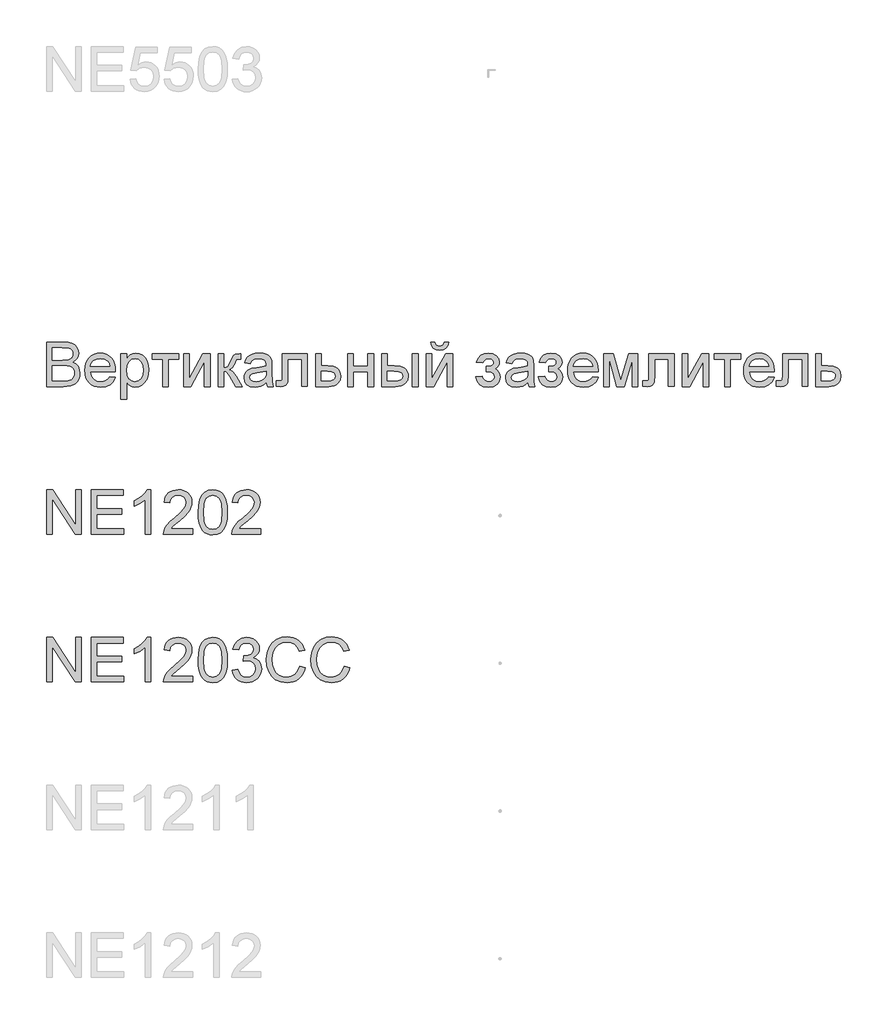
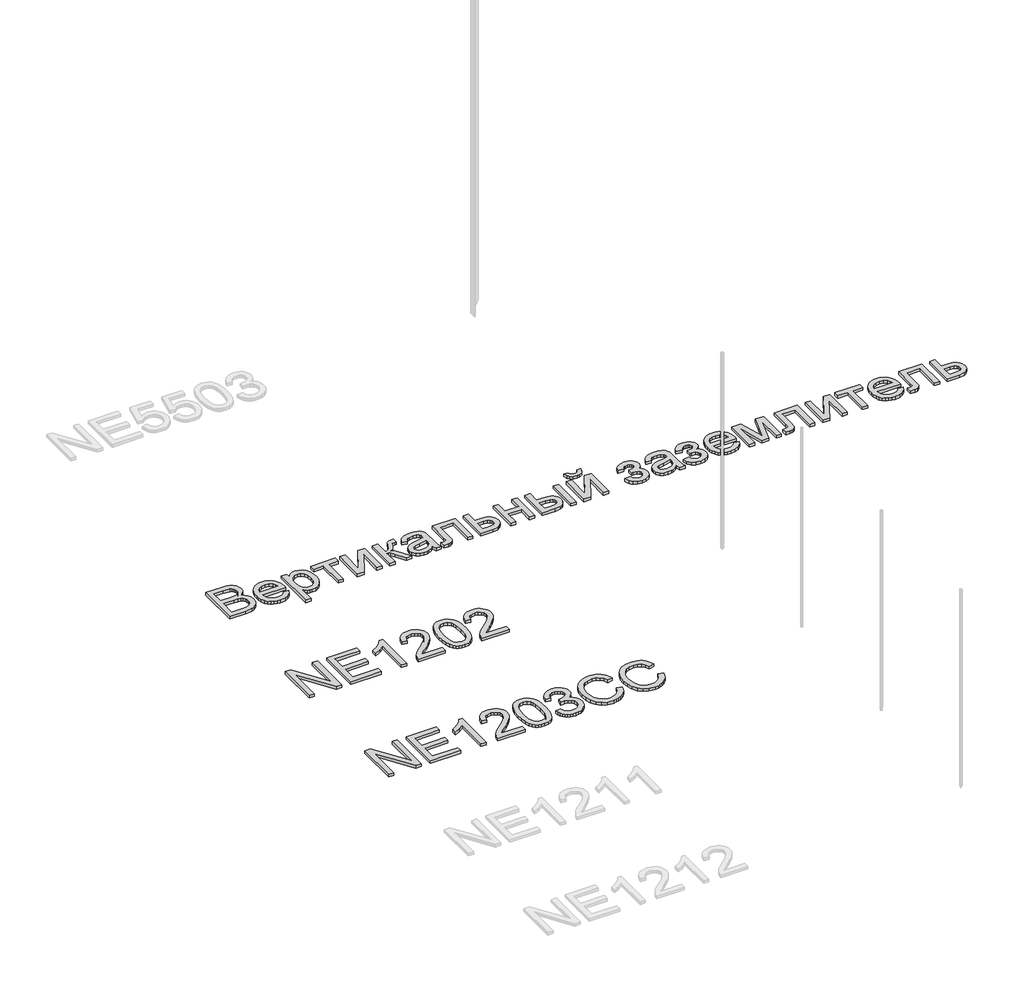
# One storey, part 51 of 124: 3 proxies.
"""IFC4 building model written with IfcOpenShell, lengths in millimetres."""

from ifc_helpers import new_model, si_unit, origin, origin_with_axes, place, context, project, spatial, polyline, outline, extrude, element, save

model = new_model("IFC4")

# Units and contexts
model_context = context("Model", 3, world=origin())
ifc_project = project(units=[si_unit("LENGTHUNIT", "METRE", prefix="MILLI")], contexts=[model_context])

# Site, building, storey
site = spatial("IfcSite", under=ifc_project)
building = spatial("IfcBuilding", under=site)
storey = spatial("IfcBuildingStorey", under=building, Name="Этаж 01", Elevation=0.0)

# Proxies
placement = place(None, origin())
element("IfcBuildingElementProxy", 1, Name="300", ObjectType="300", at=placement, inside=storey, context=model_context, shape_type="SweptSolid", body=[
    extrude(outline(polyline([(32939.8675381, -67074.498362), (32939.8675381, -66773.1294316), (33054.8674498, -66773.1294316), (33086.4961044, -66775.3459206), (33111.1901833, -66781.9953876), (33130.117712, -66793.2433796), (33144.4467157, -66809.2554435), (33153.4690216, -66828.0910016), (33156.4764569, -66847.8094766), (33153.9472682, -66865.955256), (33146.359702, -66883.0157835), (33133.6585762, -66897.9425955), (33115.7887082, -66909.6872282), (33137.135061, -66920.8340526), (33152.9080016, -66937.7934126), (33162.6476774, -66959.443268), (33165.894236, -66984.6615788), (33163.677747, -67005.6768378), (33157.0282799, -67025.1653864), (33147.1046631, -67041.7384703), (33135.0657248, -67054.0073349), (33120.3228538, -67062.8916851), (33102.287439, -67069.3112259), (33053.9845331, -67074.498362), (32939.8675381, -67074.498362)]), holes=[polyline([(32977.5386545, -66895.5605595), (33046.3325876, -66895.5605595), (33086.5053014, -66892.323198), (33100.5675907, -66886.7405887), (33110.6751485, -66878.3804704), (33116.7727926, -66867.3716017), (33118.8053406, -66853.8427413), (33116.9107483, -66840.7093541), (33111.2269715, -66829.268224), (33102.0115275, -66820.3378886), (33089.5219338, -66814.7368852), (33041.1086632, -66810.8005479), (32977.5386545, -66810.8005479), (32977.5386545, -66895.5605595)]), polyline([(32977.5386545, -67036.8272457), (33054.7938734, -67036.8272457), (33082.7529051, -67035.3557177), (33106.4077174, -67027.1519492), (33122.0794904, -67010.4133184), (33126.6872123, -66998.5859123), (33128.2231197, -66985.0294608), (33126.4204979, -66969.2841114), (33121.0126326, -66955.746054), (33111.5672623, -66945.1602495), (33097.6521259, -66938.2716592), (33077.942848, -66934.4916717), (33051.1150535, -66933.2316759), (32977.5386545, -66933.2316759), (32977.5386545, -67036.8272457)])]), origin_with_axes(), (0.0, 0.0, 1.0), 20.0),
    extrude(outline(polyline([(33367.9350277, -67008.5739085), (33404.8703801, -67013.282798), (33391.5622489, -67041.1130709), (33370.3262607, -67061.9167978), (33341.6406621, -67074.8846381), (33305.9836997, -67079.2072515), (33282.6093975, -67077.3425497), (33261.782678, -67071.7484441), (33243.5035414, -67062.4249348), (33227.7719876, -67049.3720217), (33215.1214455, -67032.9529884), (33206.085344, -67013.5311184), (33200.6636831, -66991.1064115), (33198.8564628, -66965.6788678), (33200.6820772, -66939.3891007), (33206.1589204, -66916.2171336), (33215.2869924, -66896.1629663), (33228.0662932, -66879.226599), (33243.7564603, -66865.771315), (33261.6171311, -66856.1603979), (33281.6483058, -66850.3938476), (33303.8499842, -66848.4716642), (33325.336592, -66850.3892491), (33344.7676591, -66856.1420038), (33362.1431856, -66865.7299283), (33377.4631714, -66879.1530226), (33389.96886, -66896.0526017), (33398.9014947, -66916.0699808), (33404.2610755, -66939.2051598), (33406.0476024, -66965.4581386), (33405.8268732, -66975.6116817), (33236.5275791, -66975.6116817), (33243.0482874, -67003.8098366), (33258.1958286, -67024.5399871), (33280.0572161, -67037.2870982), (33306.7194637, -67041.5361352), (33326.7690325, -67039.5679666), (33343.6548161, -67033.6634605), (33357.3768145, -67023.4547352), (33367.9350277, -67008.5739085)]), holes=[polyline([(33236.5275791, -66937.9405654), (33368.3764861, -66937.9405654), (33363.2813205, -66918.0381495), (33353.2933243, -66903.8011162), (33331.3307692, -66890.5573644), (33303.7028314, -66886.1427805), (33278.3097767, -66889.6652506), (33257.3129118, -66900.2326609), (33242.7171936, -66916.7045772), (33236.5275791, -66937.9405654)])]), origin_with_axes(), (0.0, 0.0, 1.0), 20.0),
    extrude(outline(polyline([(33443.7187187, -67159.2583737), (33443.7187187, -66853.1805537), (33481.389835, -66853.1805537), (33481.389835, -66890.115906), (33493.6770937, -66871.8965502), (33507.4358803, -66858.8827246), (33523.4755353, -66851.0744293), (33542.605399, -66848.4716642), (33568.0812272, -66852.1136959), (33590.356482, -66863.0397912), (33608.4930644, -66880.5877623), (33621.5528752, -66904.0954218), (33629.443944, -66931.8521184), (33632.0743003, -66962.1472007), (33629.1036532, -66994.3644664), (33620.1917118, -67023.1788237), (33605.6235848, -67047.1279416), (33585.6843807, -67064.7494891), (33562.4618297, -67075.5928109), (33538.0436623, -67079.2072515), (33520.7256174, -67076.7884274), (33505.2653765, -67069.5319551), (33492.0308218, -67058.5782687), (33481.389835, -67045.0678024), (33481.389835, -67159.2583737), (33443.7187187, -67159.2583737)]), holes=[polyline([(33481.389835, -66965.6052914), (33485.4641281, -66999.3768586), (33497.6870074, -67022.9948827), (33515.7224222, -67036.9008221), (33537.2343219, -67041.5361352), (33559.0957095, -67036.7352752), (33577.5909768, -67022.3326951), (33590.2001322, -66997.8501483), (33594.403184, -66962.8093883), (33590.3012997, -66929.2217621), (33577.995647, -66905.2726442), (33559.9878233, -66890.9252464), (33538.7794263, -66886.1427805), (33517.4882558, -66891.2287491), (33498.7906534, -66906.4866548), (33485.7400396, -66931.4382511), (33481.389835, -66965.6052914)])]), origin_with_axes(), (0.0, 0.0, 1.0), 20.0),
    extrude(outline(polyline([(33655.618748, -66853.1805537), (33834.5565504, -66853.1805537), (33834.5565504, -66890.85167), (33763.9232073, -66890.85167), (33763.9232073, -67074.498362), (33726.252091, -67074.498362), (33726.252091, -66890.85167), (33655.618748, -66890.85167), (33655.618748, -66853.1805537)])), origin_with_axes(), (0.0, 0.0, 1.0), 20.0),
    extrude(outline(polyline([(33867.5187772, -66853.1805537), (33905.1898935, -66853.1805537), (33905.1898935, -67021.9648131), (33997.7490035, -66853.1805537), (34046.4565796, -66853.1805537), (34046.4565796, -67074.498362), (34008.7854633, -67074.498362), (34008.7854633, -66906.7441722), (33916.8149645, -67074.498362), (33867.5187772, -67074.498362), (33867.5187772, -66853.1805537)])), origin_with_axes(), (0.0, 0.0, 1.0), 20.0),
    extrude(outline(polyline([(34102.9632541, -66853.1805537), (34140.6343704, -66853.1805537), (34140.6343704, -66947.3583445), (34155.9566555, -66945.6660873), (34165.8710753, -66940.5893158), (34174.6450609, -66927.3455639), (34186.5460434, -66901.1523659), (34203.7261326, -66867.1232813), (34218.8828708, -66856.0500333), (34246.4372322, -66853.1805537), (34253.6477193, -66853.1805537), (34253.6477193, -66891.0723992), (34243.4941763, -66890.85167), (34225.1000765, -66894.8247956), (34212.1506303, -66919.620042), (34196.9571039, -66946.4386395), (34175.6567363, -66959.5720267), (34187.5945071, -66964.874126), (34199.4219132, -66974.2321242), (34222.7456317, -67005.1158177), (34263.0654984, -67074.498362), (34220.2440342, -67074.498362), (34180.7335079, -67006.5873457), (34160.8678801, -66977.8557619), (34151.5788598, -66972.6410346), (34140.6343704, -66970.9027922), (34140.6343704, -67074.498362), (34102.9632541, -67074.498362), (34102.9632541, -66853.1805537)])), origin_with_axes(), (0.0, 0.0, 1.0), 20.0),
    extrude(outline(polyline([(34427.8766322, -67046.2450248), (34409.8780056, -67061.6776745), (34391.3459501, -67071.7760352), (34371.8574014, -67077.3494475), (34350.9892952, -67079.2072515), (34319.5077935, -67074.7374853), (34296.2852426, -67061.3281866), (34281.9654359, -67040.9659181), (34277.192167, -67015.6372428), (34278.9947888, -67000.0206521), (34284.4026541, -66985.8388012), (34292.7443784, -66973.6986953), (34303.3485769, -66964.2073398), (34329.7257159, -66951.8465048), (34362.3200607, -66946.1811221), (34400.8373056, -66940.2214338), (34427.655903, -66933.2316759), (34427.8766322, -66924.8439664), (34425.2830642, -66908.0317592), (34417.50236, -66897.0320875), (34400.1015416, -66888.8651072), (34375.8581181, -66886.1427805), (34353.4173164, -66887.9545993), (34337.7455434, -66893.3900558), (34327.0585715, -66903.4424313), (34319.5721729, -66919.1050072), (34281.9010566, -66914.3961177), (34288.440159, -66893.794726), (34298.1982289, -66877.6079182), (34312.0857743, -66865.228689), (34331.0133029, -66856.0500333), (34354.1622775, -66850.3662564), (34380.7141605, -66848.4716642), (34406.1807916, -66850.1455272), (34426.3683161, -66855.1671165), (34441.5894336, -66862.7178944), (34452.1568439, -66871.9793237), (34459.1649959, -66883.4296508), (34463.7083386, -66897.5471223), (34465.5477485, -66930.5093491), (34465.5477485, -66977.3775153), (34467.4607349, -67042.8237222), (34474.9655276, -67074.498362), (34437.2944113, -67074.498362), (34427.8766322, -67046.2450248)]), holes=[polyline([(34427.8766322, -66970.9027922), (34367.1025266, -66982.4542868), (34334.6921229, -66988.5611279), (34320.0136313, -66998.4939418), (34314.8632833, -67012.9884924), (34317.6683835, -67024.1904992), (34326.0836842, -67033.3691549), (34339.9252442, -67039.4943902), (34359.0091227, -67041.5361352), (34379.2426325, -67039.282858), (34397.1216974, -67032.5230264), (34411.6162481, -67022.5626213), (34421.6962147, -67010.707624), (34426.165981, -66998.4939418), (34427.655903, -66981.57137), (34427.8766322, -66970.9027922)])]), origin_with_axes(), (0.0, 0.0, 1.0), 20.0),
    extrude(outline(polyline([(34536.1810916, -66853.1805537), (34705.701115, -66853.1805537), (34705.701115, -67074.2776328), (34668.0299987, -67074.2776328), (34668.0299987, -66890.85167), (34573.8522079, -66890.85167), (34573.8522079, -66996.4338026), (34571.3138222, -67045.1413788), (34566.5589474, -67056.1686416), (34557.3710945, -67065.7059823), (34543.4283669, -67072.3002671), (34524.4088678, -67074.498362), (34493.8010858, -67072.5853756), (34493.8010858, -67036.8272457), (34510.6500812, -67036.8272457), (34527.6830175, -67034.5095891), (34534.4888344, -67027.1519492), (34536.1810916, -66994.3000871), (34536.1810916, -66853.1805537)])), origin_with_axes(), (0.0, 0.0, 1.0), 20.0),
    extrude(outline(polyline([(34762.2077895, -66853.1805537), (34799.8789058, -66853.1805537), (34799.8789058, -66933.2316759), (34843.2889812, -66933.2316759), (34880.9233093, -66937.9497624), (34896.0708505, -66943.8473707), (34908.7719763, -66952.1040222), (34918.8151548, -66962.4346085), (34925.9888537, -66974.554021), (34931.7278128, -67004.1593245), (34926.8441793, -67031.1158777), (34912.1932789, -67053.8601821), (34900.9613817, -67062.8893858), (34886.8002242, -67069.338817), (34849.6901279, -67074.498362), (34762.2077895, -67074.498362), (34762.2077895, -66853.1805537)]), holes=[polyline([(34799.8789058, -67036.8272457), (34835.0484245, -67036.8272457), (34862.3360715, -67034.84988), (34880.4818509, -67028.9177828), (34890.6629851, -67018.7918309), (34894.0566965, -67004.2329009), (34891.5459019, -66991.9272482), (34884.0135181, -66981.0563352), (34867.8726955, -66973.4411779), (34839.5365848, -66970.9027922), (34799.8789058, -66970.9027922), (34799.8789058, -67036.8272457)])]), origin_with_axes(), (0.0, 0.0, 1.0), 20.0),
    extrude(outline(polyline([(34978.8167082, -66853.1805537), (35016.4878245, -66853.1805537), (35016.4878245, -66937.9405654), (35115.3745048, -66937.9405654), (35115.3745048, -66853.1805537), (35153.0456211, -66853.1805537), (35153.0456211, -67074.498362), (35115.3745048, -67074.498362), (35115.3745048, -66975.6116817), (35016.4878245, -66975.6116817), (35016.4878245, -67074.498362), (34978.8167082, -67074.498362), (34978.8167082, -66853.1805537)])), origin_with_axes(), (0.0, 0.0, 1.0), 20.0),
    extrude(outline(polyline([(35416.7434353, -66853.1805537), (35454.4145516, -66853.1805537), (35454.4145516, -67074.498362), (35416.7434353, -67074.498362), (35416.7434353, -66853.1805537)])), origin_with_axes(), (0.0, 0.0, 1.0), 20.0),
    extrude(outline(polyline([(35209.5522956, -66853.1805537), (35247.2234119, -66853.1805537), (35247.2234119, -66933.2316759), (35293.7972725, -66933.2316759), (35334.0527598, -66937.9497624), (35350.269458, -66943.8473707), (35363.8787926, -66952.1040222), (35374.6462387, -66962.4346085), (35382.3372717, -66974.554021), (35386.9518915, -66988.4622596), (35388.490098, -67004.1593245), (35383.3305531, -67031.1158777), (35367.8519181, -67053.8601821), (35355.990023, -67062.8893858), (35341.0425177, -67069.338817), (35301.8906764, -67074.498362), (35209.5522956, -67074.498362), (35209.5522956, -66853.1805537)]), holes=[polyline([(35247.2234119, -67036.8272457), (35285.9245978, -67036.8272457), (35315.9253745, -67034.84988), (35335.8829727, -67028.9177828), (35347.0849795, -67018.7918309), (35350.8189817, -67004.2329009), (35348.0506697, -66991.9272482), (35339.7457337, -66981.0563352), (35321.9862304, -66973.4411779), (35290.8542165, -66970.9027922), (35247.2234119, -66970.9027922), (35247.2234119, -67036.8272457)])]), origin_with_axes(), (0.0, 0.0, 1.0), 20.0),
    extrude(outline(polyline([(35510.921226, -66853.1805537), (35548.5923423, -66853.1805537), (35548.5923423, -67021.9648131), (35641.1514523, -66853.1805537), (35689.8590285, -66853.1805537), (35689.8590285, -67074.498362), (35652.1879122, -67074.498362), (35652.1879122, -66906.7441722), (35560.2174134, -67074.498362), (35510.921226, -67074.498362), (35510.921226, -66853.1805537)])), origin_with_axes(), (0.0, 0.0, 1.0), 20.0),
    extrude(outline(polyline([(35633.352354, -66773.1294316), (35661.6056913, -66773.1294316), (35655.5264413, -66797.2532934), (35643.3219561, -66815.0311908), (35625.5440587, -66825.9848772), (35602.744572, -66829.636106), (35578.0045079, -66826.0124684), (35558.8194618, -66815.1415554), (35545.7044687, -66797.3912491), (35539.1745633, -66773.1294316), (35567.4279005, -66773.1294316), (35571.401026, -66785.5362518), (35578.022902, -66794.3562227), (35587.3303164, -66799.6261323), (35599.3600577, -66801.3827688), (35612.9349033, -66799.6813146), (35622.7573526, -66794.5769519), (35629.3792285, -66785.8121633), (35633.352354, -66773.1294316)])), origin_with_axes(), (0.0, 0.0, 1.0), 20.0),
    extrude(outline(polyline([(35915.8857263, -66975.6116817), (35915.8857263, -66937.9405654), (35945.6105915, -66936.4690374), (35960.6201769, -66928.6331509), (35965.9176777, -66921.2847081), (35967.6835113, -66912.2624021), (35965.3198694, -66901.547839), (35958.228944, -66893.242903), (35947.4040163, -66887.9178111), (35933.8383677, -66886.1427805), (35920.1255663, -66887.908614), (35908.638451, -66893.2061148), (35899.3770218, -66902.0352827), (35892.3412786, -66914.3961177), (35849.9612728, -66909.6872282), (35861.2000677, -66882.9054189), (35878.2881864, -66863.7755552), (35901.2256288, -66852.2976369), (35930.0123949, -66848.4716642), (35961.5030937, -66853.1345685), (35985.341847, -66867.1232813), (36000.3514324, -66887.5867173), (36005.3546276, -66911.6737909), (36003.5749984, -66924.034626), (35998.236111, -66935.0710858), (35989.3379652, -66944.7831705), (35976.8805611, -66953.17088), (35991.421097, -66963.6371228), (36001.7861722, -66976.6417513), (36007.9941809, -66992.2215538), (36010.0635171, -67010.4133184), (36004.8120016, -67038.1424238), (35989.0574552, -67060.114176), (35963.8667356, -67074.4339827), (35930.3067005, -67079.2072515), (35897.4824295, -67074.7926676), (35872.3652863, -67061.5489158), (35854.9552709, -67039.4759961), (35845.2523833, -67008.5739085), (35887.6323891, -67003.8650189), (35893.9783535, -67019.7943093), (35904.6285373, -67031.6768978), (35918.3505357, -67039.0713259), (35933.9119441, -67041.5361352), (35949.0686823, -67039.1724934), (35961.4295173, -67032.081568), (35969.6516799, -67021.3118225), (35972.3924008, -67007.9117209), (35970.6909466, -66997.2983253), (35965.5865839, -66988.1196695), (35951.0920333, -66977.5246681), (35923.2433662, -66975.3909525), (35915.8857263, -66975.6116817)])), origin_with_axes(), (0.0, 0.0, 1.0), 20.0),
    extrude(outline(polyline([(36198.4190986, -67046.2450248), (36180.420472, -67061.6776745), (36161.8884165, -67071.7760352), (36142.3998678, -67077.3494475), (36121.5317616, -67079.2072515), (36090.0502599, -67074.7374853), (36066.827709, -67061.3281866), (36052.5079023, -67040.9659181), (36047.7346334, -67015.6372428), (36049.5372552, -67000.0206521), (36054.9451205, -66985.8388012), (36063.2868447, -66973.6986953), (36073.8910433, -66964.2073398), (36100.2681823, -66951.8465048), (36132.8625271, -66946.1811221), (36171.379772, -66940.2214338), (36198.1983694, -66933.2316759), (36198.4190986, -66924.8439664), (36195.8255306, -66908.0317592), (36188.0448264, -66897.0320875), (36170.644008, -66888.8651072), (36146.4005845, -66886.1427805), (36123.9597828, -66887.9545993), (36108.2880098, -66893.3900558), (36097.6010378, -66903.4424313), (36090.1146392, -66919.1050072), (36052.4435229, -66914.3961177), (36058.9826254, -66893.794726), (36068.7406953, -66877.6079182), (36082.6282406, -66865.228689), (36101.5557693, -66856.0500333), (36124.7047438, -66850.3662564), (36151.2566268, -66848.4716642), (36176.723258, -66850.1455272), (36196.9107824, -66855.1671165), (36212.1319, -66862.7178944), (36222.6993103, -66871.9793237), (36229.7074623, -66883.4296508), (36234.250805, -66897.5471223), (36236.0902149, -66930.5093491), (36236.0902149, -66977.3775153), (36238.0032013, -67042.8237222), (36245.507994, -67074.498362), (36207.8368777, -67074.498362), (36198.4190986, -67046.2450248)]), holes=[polyline([(36198.4190986, -66970.9027922), (36137.644993, -66982.4542868), (36105.2345892, -66988.5611279), (36090.5560976, -66998.4939418), (36085.4057497, -67012.9884924), (36088.2108499, -67024.1904992), (36096.6261506, -67033.3691549), (36110.4677106, -67039.4943902), (36129.5515891, -67041.5361352), (36149.7850989, -67039.282858), (36167.6641638, -67032.5230264), (36182.1587144, -67022.5626213), (36192.2386811, -67010.707624), (36196.7084473, -66998.4939418), (36198.1983694, -66981.57137), (36198.4190986, -66970.9027922)])]), origin_with_axes(), (0.0, 0.0, 1.0), 20.0),
    extrude(outline(polyline([(36339.6857848, -66975.6116817), (36339.6857848, -66937.9405654), (36369.41065, -66936.4690374), (36384.4202354, -66928.6331509), (36389.7177361, -66921.2847081), (36391.4835697, -66912.2624021), (36389.1199279, -66901.547839), (36382.0290024, -66893.242903), (36371.2040747, -66887.9178111), (36357.6384261, -66886.1427805), (36343.9256248, -66887.908614), (36332.4385095, -66893.2061148), (36323.1770802, -66902.0352827), (36316.1413371, -66914.3961177), (36273.7613312, -66909.6872282), (36285.0001262, -66882.9054189), (36302.0882449, -66863.7755552), (36325.0256873, -66852.2976369), (36353.8124534, -66848.4716642), (36385.3031522, -66853.1345685), (36409.1419055, -66867.1232813), (36424.1514909, -66887.5867173), (36429.154686, -66911.6737909), (36427.3750569, -66924.034626), (36422.0361694, -66935.0710858), (36413.1380236, -66944.7831705), (36400.6806196, -66953.17088), (36415.2211554, -66963.6371228), (36425.5862306, -66976.6417513), (36431.7942393, -66992.2215538), (36433.8635755, -67010.4133184), (36428.6120601, -67038.1424238), (36412.8575136, -67060.114176), (36387.666794, -67074.4339827), (36354.106759, -67079.2072515), (36321.282488, -67074.7926676), (36296.1653447, -67061.5489158), (36278.7553293, -67039.4759961), (36269.0524417, -67008.5739085), (36311.4324475, -67003.8650189), (36317.778412, -67019.7943093), (36328.4285957, -67031.6768978), (36342.1505941, -67039.0713259), (36357.7120025, -67041.5361352), (36372.8687407, -67039.1724934), (36385.2295758, -67032.081568), (36393.4517384, -67021.3118225), (36396.1924592, -67007.9117209), (36394.491005, -66997.2983253), (36389.3866423, -66988.1196695), (36374.8920917, -66977.5246681), (36347.0434247, -66975.3909525), (36339.6857848, -66975.6116817)])), origin_with_axes(), (0.0, 0.0, 1.0), 20.0),
    extrude(outline(polyline([(36635.9043673, -67008.5739085), (36672.8397196, -67013.282798), (36659.5315884, -67041.1130709), (36638.2956003, -67061.9167978), (36609.6100017, -67074.8846381), (36573.9530393, -67079.2072515), (36550.578737, -67077.3425497), (36529.7520176, -67071.7484441), (36511.4728809, -67062.4249348), (36495.7413271, -67049.3720217), (36483.090785, -67032.9529884), (36474.0546835, -67013.5311184), (36468.6330226, -66991.1064115), (36466.8258023, -66965.6788678), (36468.6514167, -66939.3891007), (36474.1282599, -66916.2171336), (36483.2563319, -66896.1629663), (36496.0356327, -66879.226599), (36511.7257998, -66865.771315), (36529.5864707, -66856.1603979), (36549.6176453, -66850.3938476), (36571.8193237, -66848.4716642), (36593.3059315, -66850.3892491), (36612.7369986, -66856.1420038), (36630.1125251, -66865.7299283), (36645.432511, -66879.1530226), (36657.9381995, -66896.0526017), (36666.8708342, -66916.0699808), (36672.2304151, -66939.2051598), (36674.016942, -66965.4581386), (36673.7962128, -66975.6116817), (36504.4969186, -66975.6116817), (36511.017627, -67003.8098366), (36526.1651681, -67024.5399871), (36548.0265557, -67037.2870982), (36574.6888033, -67041.5361352), (36594.738372, -67039.5679666), (36611.6241556, -67033.6634605), (36625.346154, -67023.4547352), (36635.9043673, -67008.5739085)]), holes=[polyline([(36504.4969186, -66937.9405654), (36636.3458257, -66937.9405654), (36631.2506601, -66918.0381495), (36621.2626639, -66903.8011162), (36599.3001088, -66890.5573644), (36571.6721709, -66886.1427805), (36546.2791162, -66889.6652506), (36525.2822513, -66900.2326609), (36510.6865332, -66916.7045772), (36504.4969186, -66937.9405654)])]), origin_with_axes(), (0.0, 0.0, 1.0), 20.0),
    extrude(outline(polyline([(36711.6880583, -66853.1805537), (36776.5088658, -66853.1805537), (36826.4672408, -67030.3525226), (36880.3251649, -66853.1805537), (36942.4236457, -66853.1805537), (36942.4236457, -67074.498362), (36904.7525294, -67074.498362), (36904.7525294, -66896.2963235), (36850.6002997, -67074.498362), (36801.1569595, -67074.498362), (36749.3591746, -66887.7614613), (36749.3591746, -67074.498362), (36711.6880583, -67074.498362), (36711.6880583, -66853.1805537)])), origin_with_axes(), (0.0, 0.0, 1.0), 20.0),
    extrude(outline(polyline([(37017.7658783, -66853.1805537), (37187.2859017, -66853.1805537), (37187.2859017, -67074.2776328), (37149.6147854, -67074.2776328), (37149.6147854, -66890.85167), (37055.4369946, -66890.85167), (37055.4369946, -66996.4338026), (37052.8986088, -67045.1413788), (37048.143734, -67056.1686416), (37038.9558812, -67065.7059823), (37025.0131536, -67072.3002671), (37005.9936544, -67074.498362), (36975.3858724, -67072.5853756), (36975.3858724, -67036.8272457), (36992.2348678, -67036.8272457), (37009.2678042, -67034.5095891), (37016.0736211, -67027.1519492), (37017.7658783, -66994.3000871), (37017.7658783, -66853.1805537)])), origin_with_axes(), (0.0, 0.0, 1.0), 20.0),
    extrude(outline(polyline([(37243.7925761, -66853.1805537), (37281.4636924, -66853.1805537), (37281.4636924, -67021.9648131), (37374.0228024, -66853.1805537), (37422.7303786, -66853.1805537), (37422.7303786, -67074.498362), (37385.0592623, -67074.498362), (37385.0592623, -66906.7441722), (37293.0887635, -67074.498362), (37243.7925761, -67074.498362), (37243.7925761, -66853.1805537)])), origin_with_axes(), (0.0, 0.0, 1.0), 20.0),
    extrude(outline(polyline([(37460.4014949, -66853.1805537), (37639.3392973, -66853.1805537), (37639.3392973, -66890.85167), (37568.7059543, -66890.85167), (37568.7059543, -67074.498362), (37531.034838, -67074.498362), (37531.034838, -66890.85167), (37460.4014949, -66890.85167), (37460.4014949, -66853.1805537)])), origin_with_axes(), (0.0, 0.0, 1.0), 20.0),
    extrude(outline(polyline([(37827.2534205, -67008.5739085), (37864.1887728, -67013.282798), (37850.8806416, -67041.1130709), (37829.6446534, -67061.9167978), (37800.9590549, -67074.8846381), (37765.3020925, -67079.2072515), (37741.9277902, -67077.3425497), (37721.1010708, -67071.7484441), (37702.8219341, -67062.4249348), (37687.0903803, -67049.3720217), (37674.4398382, -67032.9529884), (37665.4037367, -67013.5311184), (37659.9820758, -66991.1064115), (37658.1748555, -66965.6788678), (37660.0004699, -66939.3891007), (37665.4773131, -66916.2171336), (37674.6053851, -66896.1629663), (37687.3846859, -66879.226599), (37703.074853, -66865.771315), (37720.9355239, -66856.1603979), (37740.9666985, -66850.3938476), (37763.1683769, -66848.4716642), (37784.6549847, -66850.3892491), (37804.0860518, -66856.1420038), (37821.4615783, -66865.7299283), (37836.7815641, -66879.1530226), (37849.2872527, -66896.0526017), (37858.2198874, -66916.0699808), (37863.5794682, -66939.2051598), (37865.3659952, -66965.4581386), (37865.145266, -66975.6116817), (37695.8459718, -66975.6116817), (37702.3666802, -67003.8098366), (37717.5142213, -67024.5399871), (37739.3756089, -67037.2870982), (37766.0378565, -67041.5361352), (37786.0874252, -67039.5679666), (37802.9732088, -67033.6634605), (37816.6952072, -67023.4547352), (37827.2534205, -67008.5739085)]), holes=[polyline([(37695.8459718, -66937.9405654), (37827.6948789, -66937.9405654), (37822.5997132, -66918.0381495), (37812.6117171, -66903.8011162), (37790.649162, -66890.5573644), (37763.0212241, -66886.1427805), (37737.6281694, -66889.6652506), (37716.6313045, -66900.2326609), (37702.0355864, -66916.7045772), (37695.8459718, -66937.9405654)])]), origin_with_axes(), (0.0, 0.0, 1.0), 20.0),
    extrude(outline(polyline([(37921.8726696, -66853.1805537), (38091.392693, -66853.1805537), (38091.392693, -67074.2776328), (38053.7215767, -67074.2776328), (38053.7215767, -66890.85167), (37959.5437859, -66890.85167), (37959.5437859, -66996.4338026), (37957.0054002, -67045.1413788), (37952.2505254, -67056.1686416), (37943.0626726, -67065.7059823), (37929.1199449, -67072.3002671), (37910.1004458, -67074.498362), (37879.4926638, -67072.5853756), (37879.4926638, -67036.8272457), (37896.3416592, -67036.8272457), (37913.3745955, -67034.5095891), (37920.1804125, -67027.1519492), (37921.8726696, -66994.3000871), (37921.8726696, -66853.1805537)])), origin_with_axes(), (0.0, 0.0, 1.0), 20.0),
    extrude(outline(polyline([(38147.8993675, -66853.1805537), (38185.5704838, -66853.1805537), (38185.5704838, -66933.2316759), (38228.9805592, -66933.2316759), (38266.6148873, -66937.9497624), (38281.7624285, -66943.8473707), (38294.4635543, -66952.1040222), (38304.5067328, -66962.4346085), (38311.6804317, -66974.554021), (38317.4193908, -67004.1593245), (38312.5357574, -67031.1158777), (38297.8848569, -67053.8601821), (38286.6529597, -67062.8893858), (38272.4918022, -67069.338817), (38235.3817059, -67074.498362), (38147.8993675, -67074.498362), (38147.8993675, -66853.1805537)]), holes=[polyline([(38185.5704838, -67036.8272457), (38220.7400025, -67036.8272457), (38248.0276495, -67034.84988), (38266.1734289, -67028.9177828), (38276.3545631, -67018.7918309), (38279.7482745, -67004.2329009), (38277.2374799, -66991.9272482), (38269.7050961, -66981.0563352), (38253.5642735, -66973.4411779), (38225.2281629, -66970.9027922), (38185.5704838, -66970.9027922), (38185.5704838, -67036.8272457)])]), origin_with_axes(), (0.0, 0.0, 1.0), 20.0),
])
element("IfcBuildingElementProxy", 2, Name="300", ObjectType="300", at=placement, inside=storey, context=model_context, shape_type="SweptSolid", body=[
    extrude(outline(polyline([(32939.8675381, -68074.498362), (32939.8675381, -67773.1294316), (32980.1874048, -67773.1294316), (33137.6408988, -68011.8848464), (33137.6408988, -67773.1294316), (33175.3120151, -67773.1294316), (33175.3120151, -68074.498362), (33134.9921484, -68074.498362), (32977.5386545, -67835.6693707), (32977.5386545, -68074.498362), (32939.8675381, -68074.498362)])), origin_with_axes(), (0.0, 0.0, 1.0), 20.0),
    extrude(outline(polyline([(33241.2364686, -68074.498362), (33241.2364686, -67773.1294316), (33457.8453874, -67773.1294316), (33457.8453874, -67810.8005479), (33278.9075849, -67810.8005479), (33278.9075849, -67900.2694491), (33448.4276083, -67900.2694491), (33448.4276083, -67937.9405654), (33278.9075849, -67937.9405654), (33278.9075849, -68036.8272457), (33462.5542769, -68036.8272457), (33462.5542769, -68074.498362), (33241.2364686, -68074.498362)])), origin_with_axes(), (0.0, 0.0, 1.0), 20.0),
    extrude(outline(polyline([(33646.2009689, -68074.498362), (33608.5298526, -68074.498362), (33608.5298526, -67839.6424963), (33572.8452991, -67865.0631421), (33533.18762, -67884.0826413), (33533.18762, -67848.4716642), (33562.7745294, -67832.3768269), (33588.4067074, -67813.228569), (33608.612626, -67792.8663006), (33621.9207572, -67773.1294316), (33646.2009689, -67773.1294316), (33646.2009689, -68074.498362)])), origin_with_axes(), (0.0, 0.0, 1.0), 20.0),
    extrude(outline(polyline([(33928.7343412, -68036.8272457), (33928.7343412, -68074.498362), (33730.9609806, -68074.498362), (33735.0076825, -68048.5258931), (33744.2967029, -68028.2280041), (33757.8899426, -68008.5371203), (33777.5532353, -67987.9265315), (33805.0524144, -67964.8695274), (33845.7033749, -67928.7619096), (33870.0939512, -67902.1088591), (33882.2892393, -67880.4773977), (33886.3543353, -67859.4345476), (33882.5191655, -67840.5713983), (33871.0136561, -67824.8904283), (33853.3277292, -67814.323018), (33830.9513069, -67810.8005479), (33807.4528444, -67814.2402445), (33789.1967004, -67824.5593345), (33777.4152795, -67840.9484774), (33773.3409864, -67862.5983328), (33735.6698701, -67857.8894432), (33744.8025406, -67821.4507316), (33753.3488992, -67806.9147943), (33764.5486067, -67794.8344693), (33778.1441457, -67785.3385153), (33793.8779988, -67778.555691), (33831.7606473, -67773.1294316), (33851.950471, -67774.6377477), (33869.9192072, -67779.1626963), (33885.6668559, -67786.7042772), (33899.193417, -67797.2624904), (33910.0574321, -67810.0555868), (33917.817443, -67824.3018171), (33922.4734495, -67840.0011812), (33924.0254516, -67857.1536793), (33922.3515886, -67875.1707), (33917.3299993, -67892.875021), (33908.418058, -67910.8828446), (33895.0731386, -67929.8103733), (33873.8003623, -67952.4075249), (33841.1048499, -67981.4242172), (33797.7683509, -68017.6605937), (33780.7722027, -68036.8272457), (33928.7343412, -68036.8272457)])), origin_with_axes(), (0.0, 0.0, 1.0), 20.0),
    extrude(outline(polyline([(33966.4054575, -67926.2419179), (33969.1737695, -67878.0033913), (33977.4787055, -67839.5321317), (33991.2374922, -67810.2395278), (34010.3673559, -67789.5369685), (34035.0062525, -67777.2313158), (34065.2921378, -67773.1294316), (34088.5054917, -67775.5574527), (34109.2908244, -67782.8415162), (34126.6732487, -67794.6965135), (34139.6778772, -67810.8373361), (34149.5003265, -67831.1260281), (34157.336213, -67855.4246339), (34162.4681668, -67886.2807362), (34164.1788181, -67926.2419179), (34161.4380972, -67974.2045331), (34153.2159346, -68012.5838222), (34139.5399215, -68041.9040172), (34120.4376489, -68062.68935), (34095.7435699, -68075.0777761), (34065.2921378, -68079.2072515), (34044.5435933, -68077.4138268), (34026.1494935, -68072.0335526), (34010.1098385, -68063.066429), (33996.4246283, -68050.5124559), (33983.2912411, -68027.8187353), (33973.9102502, -67999.5424055), (33968.2816557, -67965.6834664), (33966.4054575, -67926.2419179)]), holes=[polyline([(34004.0765738, -67926.1683415), (34008.4911577, -67985.4249339), (34014.0093877, -68005.6929326), (34021.7349096, -68019.7207329), (34041.4533845, -68036.0822847), (34065.2921378, -68041.5361352), (34089.1308911, -68036.0638906), (34108.849366, -68019.6471565), (34116.5748879, -68005.5963636), (34122.0931178, -67985.3329634), (34126.5077018, -67926.1683415), (34122.2402706, -67868.2453214), (34116.9059817, -67848.0440013), (34109.4379772, -67833.682808), (34089.7562905, -67816.5211129), (34064.8506794, -67810.8005479), (34041.2694435, -67815.8405312), (34022.3235208, -67830.9604812), (34014.3404815, -67846.595466), (34008.6383105, -67867.6751043), (34004.0765738, -67926.1683415)])]), origin_with_axes(), (0.0, 0.0, 1.0), 20.0),
    extrude(outline(polyline([(34390.2055159, -68036.8272457), (34390.2055159, -68074.498362), (34192.4321553, -68074.498362), (34196.4788573, -68048.5258931), (34205.7678777, -68028.2280041), (34219.3611174, -68008.5371203), (34239.02441, -67987.9265315), (34266.5235892, -67964.8695274), (34307.1745496, -67928.7619096), (34331.5651259, -67902.1088591), (34343.760414, -67880.4773977), (34347.8255101, -67859.4345476), (34343.9903403, -67840.5713983), (34332.4848309, -67824.8904283), (34314.798904, -67814.323018), (34292.4224816, -67810.8005479), (34268.9240192, -67814.2402445), (34250.6678752, -67824.5593345), (34238.8864543, -67840.9484774), (34234.8121612, -67862.5983328), (34197.1410449, -67857.8894432), (34206.2737154, -67821.4507316), (34214.820074, -67806.9147943), (34226.0197815, -67794.8344693), (34239.6153205, -67785.3385153), (34255.3491736, -67778.555691), (34293.231822, -67773.1294316), (34313.4216458, -67774.6377477), (34331.390382, -67779.1626963), (34347.1380306, -67786.7042772), (34360.6645917, -67797.2624904), (34371.5286069, -67810.0555868), (34379.2886177, -67824.3018171), (34383.9446242, -67840.0011812), (34385.4966264, -67857.1536793), (34383.8227633, -67875.1707), (34378.8011741, -67892.875021), (34369.8892328, -67910.8828446), (34356.5443134, -67929.8103733), (34335.271537, -67952.4075249), (34302.5760247, -67981.4242172), (34259.2395257, -68017.6605937), (34242.2433775, -68036.8272457), (34390.2055159, -68036.8272457)])), origin_with_axes(), (0.0, 0.0, 1.0), 20.0),
])
element("IfcBuildingElementProxy", 3, Name="300", ObjectType="300", at=placement, inside=storey, context=model_context, shape_type="SweptSolid", body=[
    extrude(outline(polyline([(32939.8675381, -69074.498362), (32939.8675381, -68773.1294316), (32980.1874048, -68773.1294316), (33137.6408988, -69011.8848464), (33137.6408988, -68773.1294316), (33175.3120151, -68773.1294316), (33175.3120151, -69074.498362), (33134.9921484, -69074.498362), (32977.5386545, -68835.6693707), (32977.5386545, -69074.498362), (32939.8675381, -69074.498362)])), origin_with_axes(), (0.0, 0.0, 1.0), 20.0),
    extrude(outline(polyline([(33241.2364686, -69074.498362), (33241.2364686, -68773.1294316), (33457.8453874, -68773.1294316), (33457.8453874, -68810.8005479), (33278.9075849, -68810.8005479), (33278.9075849, -68900.2694491), (33448.4276083, -68900.2694491), (33448.4276083, -68937.9405654), (33278.9075849, -68937.9405654), (33278.9075849, -69036.8272457), (33462.5542769, -69036.8272457), (33462.5542769, -69074.498362), (33241.2364686, -69074.498362)])), origin_with_axes(), (0.0, 0.0, 1.0), 20.0),
    extrude(outline(polyline([(33646.2009689, -69074.498362), (33608.5298526, -69074.498362), (33608.5298526, -68839.6424963), (33572.8452991, -68865.0631421), (33533.18762, -68884.0826413), (33533.18762, -68848.4716642), (33562.7745294, -68832.3768269), (33588.4067074, -68813.228569), (33608.612626, -68792.8663006), (33621.9207572, -68773.1294316), (33646.2009689, -68773.1294316), (33646.2009689, -69074.498362)])), origin_with_axes(), (0.0, 0.0, 1.0), 20.0),
    extrude(outline(polyline([(33928.7343412, -69036.8272457), (33928.7343412, -69074.498362), (33730.9609806, -69074.498362), (33735.0076825, -69048.5258931), (33744.2967029, -69028.2280041), (33757.8899426, -69008.5371203), (33777.5532353, -68987.9265315), (33805.0524144, -68964.8695274), (33845.7033749, -68928.7619096), (33870.0939512, -68902.1088591), (33882.2892393, -68880.4773977), (33886.3543353, -68859.4345476), (33882.5191655, -68840.5713983), (33871.0136561, -68824.8904283), (33853.3277292, -68814.323018), (33830.9513069, -68810.8005479), (33807.4528444, -68814.2402445), (33789.1967004, -68824.5593345), (33777.4152795, -68840.9484774), (33773.3409864, -68862.5983328), (33735.6698701, -68857.8894432), (33744.8025406, -68821.4507316), (33753.3488992, -68806.9147943), (33764.5486067, -68794.8344693), (33778.1441457, -68785.3385153), (33793.8779988, -68778.555691), (33831.7606473, -68773.1294316), (33851.950471, -68774.6377477), (33869.9192072, -68779.1626963), (33885.6668559, -68786.7042772), (33899.193417, -68797.2624904), (33910.0574321, -68810.0555868), (33917.817443, -68824.3018171), (33922.4734495, -68840.0011812), (33924.0254516, -68857.1536793), (33922.3515886, -68875.1707), (33917.3299993, -68892.875021), (33908.418058, -68910.8828446), (33895.0731386, -68929.8103733), (33873.8003623, -68952.4075249), (33841.1048499, -68981.4242172), (33797.7683509, -69017.6605937), (33780.7722027, -69036.8272457), (33928.7343412, -69036.8272457)])), origin_with_axes(), (0.0, 0.0, 1.0), 20.0),
    extrude(outline(polyline([(33966.4054575, -68926.2419179), (33969.1737695, -68878.0033913), (33977.4787055, -68839.5321317), (33991.2374922, -68810.2395278), (34010.3673559, -68789.5369685), (34035.0062525, -68777.2313158), (34065.2921378, -68773.1294316), (34088.5054917, -68775.5574527), (34109.2908244, -68782.8415162), (34126.6732487, -68794.6965135), (34139.6778772, -68810.8373361), (34149.5003265, -68831.1260281), (34157.336213, -68855.4246339), (34162.4681668, -68886.2807362), (34164.1788181, -68926.2419179), (34161.4380972, -68974.2045331), (34153.2159346, -69012.5838222), (34139.5399215, -69041.9040172), (34120.4376489, -69062.68935), (34095.7435699, -69075.0777761), (34065.2921378, -69079.2072515), (34044.5435933, -69077.4138268), (34026.1494935, -69072.0335526), (34010.1098385, -69063.066429), (33996.4246283, -69050.5124559), (33983.2912411, -69027.8187353), (33973.9102502, -68999.5424055), (33968.2816557, -68965.6834664), (33966.4054575, -68926.2419179)]), holes=[polyline([(34004.0765738, -68926.1683415), (34008.4911577, -68985.4249339), (34014.0093877, -69005.6929326), (34021.7349096, -69019.7207329), (34041.4533845, -69036.0822847), (34065.2921378, -69041.5361352), (34089.1308911, -69036.0638906), (34108.849366, -69019.6471565), (34116.5748879, -69005.5963636), (34122.0931178, -68985.3329634), (34126.5077018, -68926.1683415), (34122.2402706, -68868.2453214), (34116.9059817, -68848.0440013), (34109.4379772, -68833.682808), (34089.7562905, -68816.5211129), (34064.8506794, -68810.8005479), (34041.2694435, -68815.8405312), (34022.3235208, -68830.9604812), (34014.3404815, -68846.595466), (34008.6383105, -68867.6751043), (34004.0765738, -68926.1683415)])]), origin_with_axes(), (0.0, 0.0, 1.0), 20.0),
    extrude(outline(polyline([(34197.1410449, -68994.4472399), (34234.8121612, -68989.7383503), (34243.2458559, -69013.4115567), (34255.5974939, -69029.3960294), (34272.4740804, -69038.5011088), (34294.4826208, -69041.5361352), (34320.3079369, -69037.3606746), (34340.247141, -69024.8342927), (34352.9942521, -69006.1458873), (34357.2432892, -68983.4843564), (34353.0310403, -68961.9724567), (34340.3942938, -68944.5256531), (34321.26443, -68932.9649614), (34297.5728295, -68929.1113975), (34271.1589023, -68933.2316759), (34275.352757, -68895.5605595), (34281.3860218, -68896.0020179), (34303.9555822, -68893.2980853), (34324.1339096, -68885.1862873), (34338.3709428, -68871.4642889), (34343.1166206, -68851.9297549), (34339.6769239, -68835.6601737), (34329.3578339, -68822.4624071), (34313.6124845, -68813.7160127), (34293.8940096, -68810.8005479), (34274.1387465, -68813.7436038), (34257.9887269, -68822.5727717), (34246.1981089, -68837.2880515), (34239.5210507, -68857.8894432), (34201.8499344, -68853.1805537), (34212.9415766, -68819.3538042), (34232.6784456, -68794.0987053), (34259.680984, -68778.37175), (34292.5696344, -68773.1294316), (34316.2520379, -68775.7138026), (34338.0030608, -68783.4669156), (34356.3419783, -68795.698992), (34369.7880652, -68811.7202528), (34378.0378189, -68830.178732), (34380.7877369, -68849.7224629), (34378.1757747, -68867.9326217), (34370.3398882, -68884.4505233), (34357.390442, -68898.5220096), (34339.4378006, -68909.3929226), (34363.0190365, -68918.9210662), (34380.4934313, -68935.1446622), (34391.3091619, -68957.1807937), (34394.9144055, -68984.146544), (34393.1117837, -69003.2580136), (34387.7039184, -69020.8611671), (34378.6908095, -69036.9560044), (34366.0724571, -69051.5425255), (34350.6995882, -69063.6458431), (34333.42293, -69072.29107), (34314.2424825, -69077.4782062), (34293.1582456, -69079.2072515), (34274.1019583, -69077.731125), (34256.7379281, -69073.3027455), (34241.0661551, -69065.922113), (34227.0866393, -69055.5892274), (34215.3649992, -69042.9110942), (34206.4668534, -69028.4947185), (34200.392202, -69012.3401004), (34197.1410449, -68994.4472399)])), origin_with_axes(), (0.0, 0.0, 1.0), 20.0),
    extrude(outline(polyline([(34653.9033301, -68967.371125), (34691.5744464, -68977.0832097), (34684.1202375, -69000.510395), (34674.1920221, -69020.9807288), (34661.7898003, -69038.494211), (34646.9135722, -69053.0508417), (34629.8990299, -69064.494271), (34611.0818658, -69072.6681491), (34590.46208, -69077.5724759), (34568.0396724, -69079.2072515), (34524.3444884, -69074.2592387), (34489.6440192, -69059.4152002), (34463.046151, -69035.1901708), (34443.6587698, -69002.0991854), (34431.8221666, -68963.1956644), (34427.8766322, -68921.5330284), (34432.3372014, -68877.5895241), (34445.718909, -68839.6424963), (34467.3227792, -68808.8967585), (34496.4498361, -68786.5571244), (34530.9939555, -68772.9546876), (34568.8490128, -68768.420542), (34610.1529638, -68774.2882598), (34628.1217, -68781.6229071), (34644.30161, -68791.8914133), (34658.4259794, -68804.8224654), (34670.2280936, -68820.1447505), (34686.8655568, -68857.9630196), (34649.1944405, -68866.9393403), (34636.1346297, -68839.4677523), (34618.2923529, -68820.6229971), (34595.446881, -68809.724493), (34567.3774848, -68806.0916583), (34535.0222633, -68810.1199662), (34508.4427892, -68822.2048897), (34488.2736588, -68841.0772361), (34475.1494686, -68865.4678123), (34467.9481786, -68893.0405679), (34465.5477485, -68921.459452), (34468.389637, -68956.2610888), (34476.9153022, -68986.353836), (34491.446641, -69010.5880624), (34512.3055501, -69027.8141368), (34537.3123288, -69038.1056356), (34564.2872761, -69041.5361352), (34595.7319896, -69036.8640339), (34621.9343847, -69022.8477299), (34641.717239, -68999.634376), (34653.9033301, -68967.371125)])), origin_with_axes(), (0.0, 0.0, 1.0), 20.0),
    extrude(outline(polyline([(34955.2722605, -68967.371125), (34992.9433768, -68977.0832097), (34985.4891679, -69000.510395), (34975.5609526, -69020.9807288), (34963.1587308, -69038.494211), (34948.2825026, -69053.0508417), (34931.2679603, -69064.494271), (34912.4507963, -69072.6681491), (34891.8310105, -69077.5724759), (34869.4086029, -69079.2072515), (34825.7134189, -69074.2592387), (34791.0129497, -69059.4152002), (34764.4150814, -69035.1901708), (34745.0277003, -69002.0991854), (34733.1910971, -68963.1956644), (34729.2455627, -68921.5330284), (34733.7061319, -68877.5895241), (34747.0878395, -68839.6424963), (34768.6917096, -68808.8967585), (34797.8187666, -68786.5571244), (34832.3628859, -68772.9546876), (34870.2179432, -68768.420542), (34911.5218942, -68774.2882598), (34929.4906305, -68781.6229071), (34945.6705405, -68791.8914133), (34959.7949098, -68804.8224654), (34971.5970241, -68820.1447505), (34988.2344873, -68857.9630196), (34950.563371, -68866.9393403), (34937.5035602, -68839.4677523), (34919.6612834, -68820.6229971), (34896.8158115, -68809.724493), (34868.7464153, -68806.0916583), (34836.3911938, -68810.1199662), (34809.8117196, -68822.2048897), (34789.6425892, -68841.0772361), (34776.5183991, -68865.4678123), (34769.317109, -68893.0405679), (34766.916679, -68921.459452), (34769.7585674, -68956.2610888), (34778.2842326, -68986.353836), (34792.8155715, -69010.5880624), (34813.6744806, -69027.8141368), (34838.6812592, -69038.1056356), (34865.6562065, -69041.5361352), (34897.10092, -69036.8640339), (34923.3033151, -69022.8477299), (34943.0861694, -68999.634376), (34955.2722605, -68967.371125)])), origin_with_axes(), (0.0, 0.0, 1.0), 20.0),
])

save(model, "model.ifc")
